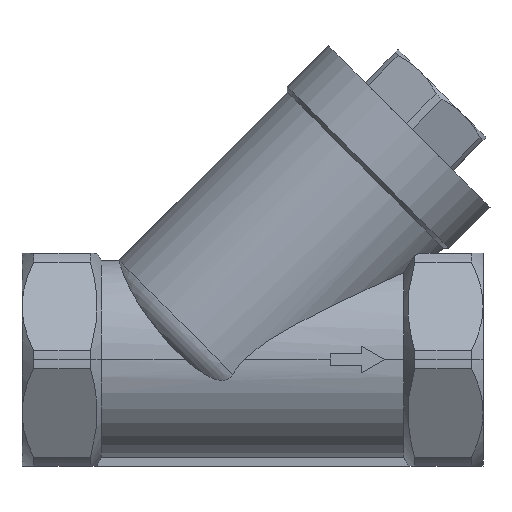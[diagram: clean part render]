
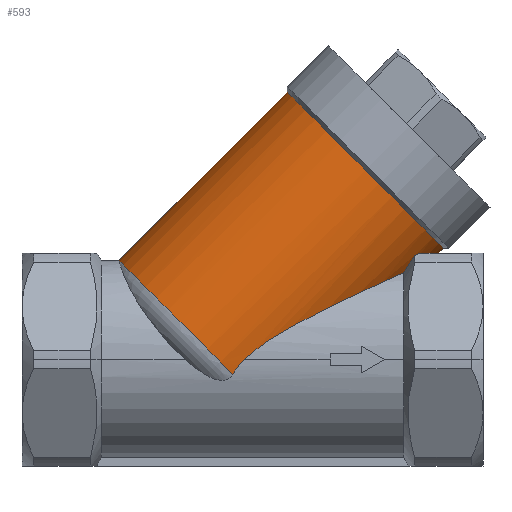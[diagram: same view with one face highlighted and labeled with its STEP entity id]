
A CAD part, top view. The second image highlights one B-rep face of the part: STEP entity #593.
In plain terms, the highlighted cylindrical face has radius 28.5 mm (diameter 57 mm), a partial arc.
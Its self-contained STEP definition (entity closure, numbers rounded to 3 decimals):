
#40 = CARTESIAN_POINT ( 'NONE',  ( 39., 22.445, 12.312 ) ) ;
#170 = CARTESIAN_POINT ( 'NONE',  ( -0.569, 1.407, 25.564 ) ) ;
#485 = CARTESIAN_POINT ( 'NONE',  ( 22.132, 14.664, 21.011 ) ) ;
#495 = EDGE_CURVE ( 'NONE', #3004, #961, #2053, .T. ) ;
#543 =( BOUNDED_CURVE ( )  B_SPLINE_CURVE ( 3, ( #740, #1667, #3507, #2229 ),
 .UNSPECIFIED., .F., .F. ) 
 B_SPLINE_CURVE_WITH_KNOTS ( ( 4, 4 ),
 ( 5.802, 6.283 ),
 .UNSPECIFIED. ) 
 CURVE ( )  GEOMETRIC_REPRESENTATION_ITEM ( )  RATIONAL_B_SPLINE_CURVE ( ( 1., 0.981, 0.981, 1. ) ) 
 REPRESENTATION_ITEM ( '' )  );
#549 = CARTESIAN_POINT ( 'NONE',  ( 42.909, 27.294, 13.621 ) ) ;
#593 = ADVANCED_FACE ( 'NONE', ( #2546 ), #1873, .T. ) ;
#609 = DIRECTION ( 'NONE',  ( 0.707, 0.707, 0. ) ) ;
#612 = CARTESIAN_POINT ( 'NONE',  ( 41.829, 26.869, 14.433 ) ) ;
#667 = CARTESIAN_POINT ( 'NONE',  ( 39.944, 23.898, 13.063 ) ) ;
#709 = ORIENTED_EDGE ( 'NONE', *, *, #1814, .F. ) ;
#716 = VECTOR ( 'NONE', #1780, 1000. ) ;
#740 = CARTESIAN_POINT ( 'NONE',  ( 43.433, 27.5, 13.191 ) ) ;
#769 = CARTESIAN_POINT ( 'NONE',  ( 43.433, 27.5, 13.191 ) ) ;
#788 = CARTESIAN_POINT ( 'NONE',  ( 69.044, 48.534, 0. ) ) ;
#798 = CIRCLE ( 'NONE', #2920, 28.5 ) ;
#799 = CARTESIAN_POINT ( 'NONE',  ( 9.65, 8.262, 24.254 ) ) ;
#802 = CARTESIAN_POINT ( 'NONE',  ( -2.081, 0., 25.6 ) ) ;
#832 = CARTESIAN_POINT ( 'NONE',  ( 41.829, 26.869, 14.433 ) ) ;
#927 = VERTEX_POINT ( 'NONE', #612 ) ;
#961 = VERTEX_POINT ( 'NONE', #3233 ) ;
#1032 = B_SPLINE_CURVE_WITH_KNOTS ( 'NONE', 3,
 ( #769, #549, #2618, #832 ),
 .UNSPECIFIED., .F., .F.,
 ( 4, 4 ),
 ( 0., 0.002 ),
 .UNSPECIFIED. ) ;
#1086 = EDGE_CURVE ( 'NONE', #2243, #3004, #543, .T. ) ;
#1295 = CARTESIAN_POINT ( 'NONE',  ( -4.681, -3.116, 25.419 ) ) ;
#1303 = CIRCLE ( 'NONE', #2174, 28.5 ) ;
#1315 = VECTOR ( 'NONE', #3125, 1000. ) ;
#1360 = CARTESIAN_POINT ( 'NONE',  ( 37.455, 21.752, 13.514 ) ) ;
#1370 = B_SPLINE_CURVE_WITH_KNOTS ( 'NONE', 3,
 ( #3723, #2223, #1416, #1376, #1295, #2716 ),
 .UNSPECIFIED., .F., .F.,
 ( 4, 2, 4 ),
 ( 0.049, 0.052, 0.054 ),
 .UNSPECIFIED. ) ;
#1376 = CARTESIAN_POINT ( 'NONE',  ( -4.211, -2.441, 25.491 ) ) ;
#1416 = CARTESIAN_POINT ( 'NONE',  ( -3.199, -1.173, 25.581 ) ) ;
#1479 = CARTESIAN_POINT ( 'NONE',  ( -1.717, 0.364, 25.6 ) ) ;
#1499 = EDGE_CURVE ( 'NONE', #2669, #3377, #1370, .T. ) ;
#1580 = CARTESIAN_POINT ( 'NONE',  ( 1.03, 2.721, 25.463 ) ) ;
#1584 = DIRECTION ( 'NONE',  ( 0.707, 0.707, 0. ) ) ;
#1667 = CARTESIAN_POINT ( 'NONE',  ( 46.455, 27.5, 9.099 ) ) ;
#1672 = CARTESIAN_POINT ( 'NONE',  ( 35.861, 21.035, 14.606 ) ) ;
#1741 = VERTEX_POINT ( 'NONE', #1753 ) ;
#1748 = ORIENTED_EDGE ( 'NONE', *, *, #2783, .F. ) ;
#1753 = CARTESIAN_POINT ( 'NONE',  ( 8.94, 69.04, 0. ) ) ;
#1780 = DIRECTION ( 'NONE',  ( 0.707, 0.707, 0. ) ) ;
#1814 = EDGE_CURVE ( 'NONE', #2253, #2669, #3721, .T. ) ;
#1821 = CARTESIAN_POINT ( 'NONE',  ( 14.996, 11.123, 23.08 ) ) ;
#1873 = CYLINDRICAL_SURFACE ( 'NONE', #3573, 28.5 ) ;
#1932 = EDGE_CURVE ( 'NONE', #927, #2253, #2560, .T. ) ;
#1938 = ORIENTED_EDGE ( 'NONE', *, *, #2121, .F. ) ;
#1980 = CARTESIAN_POINT ( 'NONE',  ( 35.049, 20.668, 15.119 ) ) ;
#2037 = CARTESIAN_POINT ( 'NONE',  ( -1.341, 0.718, 25.592 ) ) ;
#2053 = LINE ( 'NONE', #788, #1315 ) ;
#2084 = CARTESIAN_POINT ( 'NONE',  ( -34.5, 25.6, 0. ) ) ;
#2121 = EDGE_CURVE ( 'NONE', #2243, #927, #1032, .T. ) ;
#2174 = AXIS2_PLACEMENT_3D ( 'NONE', #3342, #1584, #3640 ) ;
#2223 = CARTESIAN_POINT ( 'NONE',  ( -2.654, -0.573, 25.6 ) ) ;
#2229 = CARTESIAN_POINT ( 'NONE',  ( 48.01, 27.5, 0. ) ) ;
#2243 = VERTEX_POINT ( 'NONE', #3251 ) ;
#2253 = VERTEX_POINT ( 'NONE', #2408 ) ;
#2261 = CARTESIAN_POINT ( 'NONE',  ( 32.579, 19.547, 16.576 ) ) ;
#2275 = CARTESIAN_POINT ( 'NONE',  ( 30.887, 18.773, 17.441 ) ) ;
#2287 = DIRECTION ( 'NONE',  ( -0.707, 0.707, 0. ) ) ;
#2344 = ORIENTED_EDGE ( 'NONE', *, *, #1932, .F. ) ;
#2382 = CARTESIAN_POINT ( 'NONE',  ( 28.739, 88.839, 0. ) ) ;
#2408 = CARTESIAN_POINT ( 'NONE',  ( 39., 22.445, 12.312 ) ) ;
#2411 = EDGE_CURVE ( 'NONE', #1741, #961, #1303, .T. ) ;
#2413 = CARTESIAN_POINT ( 'NONE',  ( -14.347, 5.447, 0. ) ) ;
#2528 = CARTESIAN_POINT ( 'NONE',  ( 7.005, 6.713, 24.71 ) ) ;
#2546 = FACE_OUTER_BOUND ( 'NONE', #3325, .T. ) ;
#2550 = CARTESIAN_POINT ( 'NONE',  ( 38.237, 22.103, 12.935 ) ) ;
#2560 = B_SPLINE_CURVE_WITH_KNOTS ( 'NONE', 3,
 ( #3157, #3472, #667, #3586 ),
 .UNSPECIFIED., .F., .F.,
 ( 4, 4 ),
 ( 0., 0.006 ),
 .UNSPECIFIED. ) ;
#2561 = CARTESIAN_POINT ( 'NONE',  ( 28.3, 17.575, 18.622 ) ) ;
#2614 = CARTESIAN_POINT ( 'NONE',  ( 6.127, 6.181, 24.849 ) ) ;
#2618 = CARTESIAN_POINT ( 'NONE',  ( 42.374, 27.083, 14.034 ) ) ;
#2651 = CARTESIAN_POINT ( 'NONE',  ( -2.081, 0., 25.6 ) ) ;
#2669 = VERTEX_POINT ( 'NONE', #802 ) ;
#2691 = DIRECTION ( 'NONE',  ( -0.707, 0.707, 0. ) ) ;
#2700 = CARTESIAN_POINT ( 'NONE',  ( 11.43, 9.238, 23.897 ) ) ;
#2716 = CARTESIAN_POINT ( 'NONE',  ( -5.09, -3.81, 25.315 ) ) ;
#2730 = CARTESIAN_POINT ( 'NONE',  ( -5.09, -3.81, 25.315 ) ) ;
#2779 = VERTEX_POINT ( 'NONE', #2084 ) ;
#2783 = EDGE_CURVE ( 'NONE', #2779, #1741, #2993, .T. ) ;
#2820 = DIRECTION ( 'NONE',  ( 0.707, 0.707, 0. ) ) ;
#2830 = CARTESIAN_POINT ( 'NONE',  ( 25.676, 16.348, 19.708 ) ) ;
#2848 = CARTESIAN_POINT ( 'NONE',  ( 27.43, 17.17, 18.996 ) ) ;
#2888 = CARTESIAN_POINT ( 'NONE',  ( 3.537, 4.518, 25.205 ) ) ;
#2920 = AXIS2_PLACEMENT_3D ( 'NONE', #2413, #609, #2691 ) ;
#2937 = CARTESIAN_POINT ( 'NONE',  ( 1.856, 3.336, 25.389 ) ) ;
#2940 = ORIENTED_EDGE ( 'NONE', *, *, #1499, .F. ) ;
#2993 = LINE ( 'NONE', #2382, #716 ) ;
#3004 = VERTEX_POINT ( 'NONE', #3683 ) ;
#3125 = DIRECTION ( 'NONE',  ( 0.707, 0.707, 0. ) ) ;
#3142 = CARTESIAN_POINT ( 'NONE',  ( 24.791, 15.93, 20.047 ) ) ;
#3157 = CARTESIAN_POINT ( 'NONE',  ( 41.829, 26.869, 14.433 ) ) ;
#3233 = CARTESIAN_POINT ( 'NONE',  ( 49.245, 28.735, 0. ) ) ;
#3239 = ORIENTED_EDGE ( 'NONE', *, *, #495, .T. ) ;
#3251 = CARTESIAN_POINT ( 'NONE',  ( 43.433, 27.5, 13.191 ) ) ;
#3325 = EDGE_LOOP ( 'NONE', ( #3642, #3239, #3789, #1748, #3612, #2940, #709, #2344, #1938 ) ) ;
#3342 = CARTESIAN_POINT ( 'NONE',  ( 29.092, 48.887, 0. ) ) ;
#3377 = VERTEX_POINT ( 'NONE', #2730 ) ;
#3415 = CARTESIAN_POINT ( 'NONE',  ( 20.351, 13.802, 21.585 ) ) ;
#3417 = CARTESIAN_POINT ( 'NONE',  ( 48.891, 68.686, 0. ) ) ;
#3432 = CARTESIAN_POINT ( 'NONE',  ( -0.173, 1.743, 25.543 ) ) ;
#3449 = EDGE_CURVE ( 'NONE', #2779, #3377, #798, .T. ) ;
#3472 = CARTESIAN_POINT ( 'NONE',  ( 40.887, 25.374, 13.767 ) ) ;
#3494 = CARTESIAN_POINT ( 'NONE',  ( 4.393, 5.084, 25.096 ) ) ;
#3507 = CARTESIAN_POINT ( 'NONE',  ( 48.01, 27.5, 4.616 ) ) ;
#3573 = AXIS2_PLACEMENT_3D ( 'NONE', #3417, #2820, #2287 ) ;
#3586 = CARTESIAN_POINT ( 'NONE',  ( 39., 22.445, 12.312 ) ) ;
#3612 = ORIENTED_EDGE ( 'NONE', *, *, #3449, .T. ) ;
#3640 = DIRECTION ( 'NONE',  ( -0.707, 0.707, 0. ) ) ;
#3642 = ORIENTED_EDGE ( 'NONE', *, *, #1086, .T. ) ;
#3683 = CARTESIAN_POINT ( 'NONE',  ( 48.01, 27.5, 0. ) ) ;
#3708 = CARTESIAN_POINT ( 'NONE',  ( 16.783, 12.031, 22.62 ) ) ;
#3721 = B_SPLINE_CURVE_WITH_KNOTS ( 'NONE', 3,
 ( #40, #2550, #1360, #1672, #1980, #2261, #2275, #2561, #2848, #2830, #3142, #485, #3415, #3708, #1821, #2700, #799, #2528, #2614, #3494, #2888, #2937, #1580, #3432, #170, #2037, #1479, #2651 ),
 .UNSPECIFIED., .F., .F.,
 ( 4, 2, 2, 2, 2, 2, 2, 2, 2, 2, 2, 2, 2, 4 ),
 ( 0., 0.003, 0.006, 0.012, 0.015, 0.018, 0.025, 0.031, 0.037, 0.04, 0.043, 0.046, 0.048, 0.049 ),
 .UNSPECIFIED. ) ;
#3723 = CARTESIAN_POINT ( 'NONE',  ( -2.081, 0., 25.6 ) ) ;
#3789 = ORIENTED_EDGE ( 'NONE', *, *, #2411, .F. ) ;
